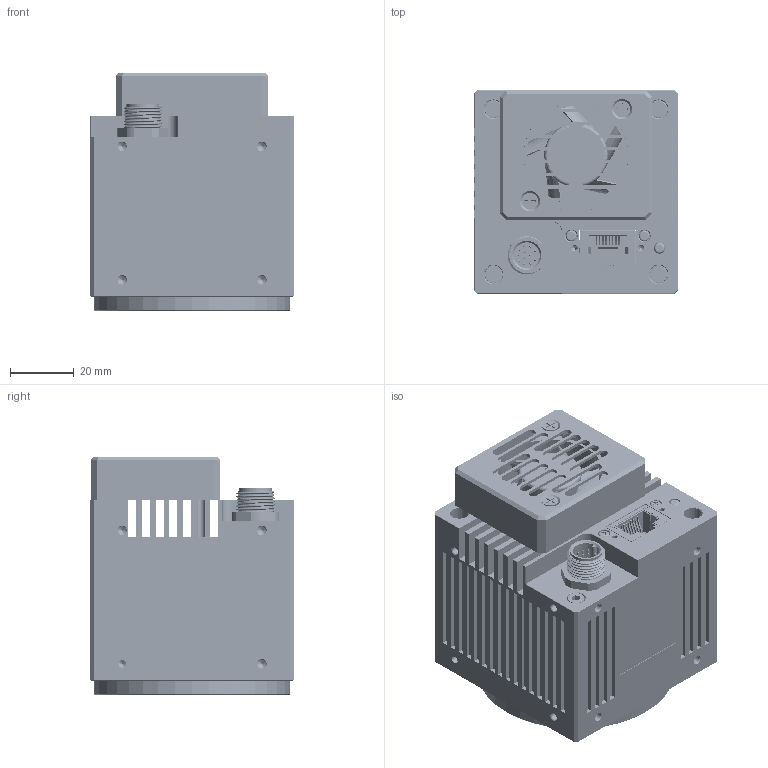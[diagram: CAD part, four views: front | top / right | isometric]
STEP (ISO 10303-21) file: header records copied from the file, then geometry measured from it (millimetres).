
FILE_DESCRIPTION(/* description */ (''),/* implementation_level */ '2;1');
FILE_NAME(/* name */ 'XG6500GCM-T-V101_stp.stp',/* time_stamp */ '2022-11-14T15:52:52+08:00',/* author */ (''),/* organization */ (''),/* preprocessor_version */ 'ST-DEVELOPER v16.7',/* originating_system */ 'SIEMENS PLM Software NX 12.0',/* authorisation */ '');
FILE_SCHEMA (('AUTOMOTIVE_DESIGN { 1 0 10303 214 3 1 1 1 }'));
Products named in the file (1): Admi0978F6AEbu9w
Bounding box: 64 x 64 x 75.11 mm (x, y, z)
Volume: 92666 mm3; surface area: 87454.2 mm2
Topology: 45 solids, 51 shells, 2933 faces, 8261 edges, 5554 vertices
Faces by surface type: plane 1733, cylinder 577, cone 354, extrusion 181, bspline 38, torus 26, sphere 24
Full cylindrical faces by diameter (mm): 0.6 x24, 0.65 x34, 1.1 x12, 1.6 x6, 1.9 x2, 2 x2, 2.05 x2, 2.2 x6, 2.5 x28, 2.9 x6, 3 x10, 3.15 x4, 3.2 x4, 3.4 x8, 3.5 x2, 3.6 x2, 5.2 x4, 5.4 x4, 5.8 x4, 10.3 x1, 11 x1, 14 x1, 33 x1, 56.5 x1, 57.2 x1, 58.5 x1, 62 x1
Entity records: 228694 total; most frequent: CARTESIAN_POINT 150645, ORIENTED_EDGE 13978, DIRECTION 13552, EDGE_CURVE 6989, VECTOR 5098, LINE 4917, VERTEX_POINT 4630, AXIS2_PLACEMENT_3D 4227
